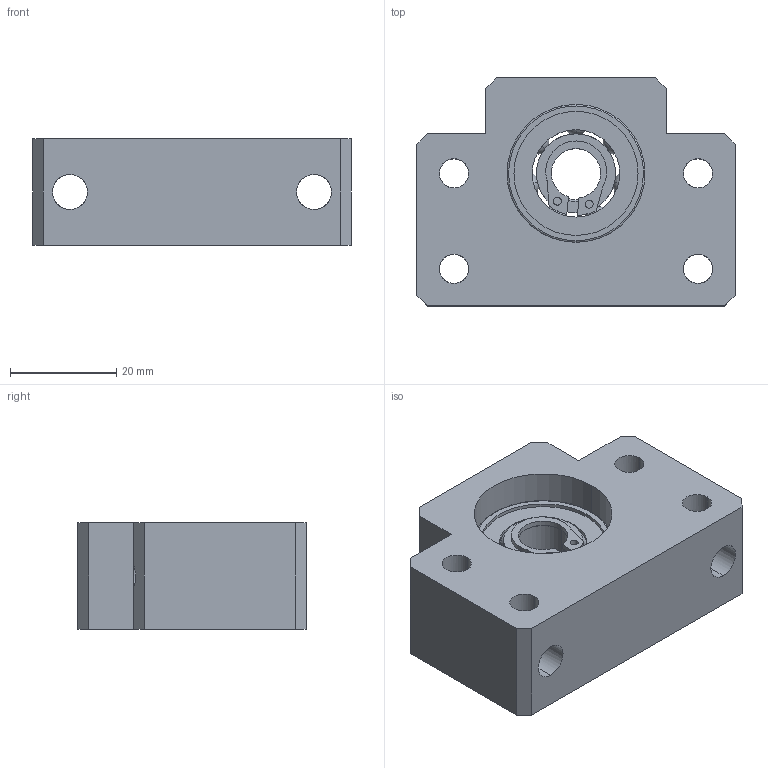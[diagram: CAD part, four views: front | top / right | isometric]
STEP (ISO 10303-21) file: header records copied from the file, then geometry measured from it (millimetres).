
FILE_DESCRIPTION (( 'STEP AP214' ), '1' );
FILE_NAME ('7.4010 BF12.STEP', '2026-03-06T06:33:21', ( '' ), ( '' ), 'SwSTEP 2.0', 'SolidWorks 2025', '' );
FILE_SCHEMA (( 'AUTOMOTIVE_DESIGN' ));
Length unit declared in the file: millimetre
Products named in the file (1): 7.4010 BF12
Bounding box: 60 x 43 x 20 mm (x, y, z)
Volume: 33793 mm3; surface area: 14891.4 mm2
Topology: 3 solids, 3 shells, 276 faces, 833 edges, 549 vertices
Faces by surface type: sphere 84, plane 76, cylinder 66, torus 32, bspline 18
Entity records: 19853 total; most frequent: CARTESIAN_POINT 10557, ORIENTED_EDGE 1666, DIRECTION 1360, EDGE_CURVE 833, AXIS2_PLACEMENT_3D 568, VERTEX_POINT 549, EDGE_LOOP 318, CIRCLE 309
